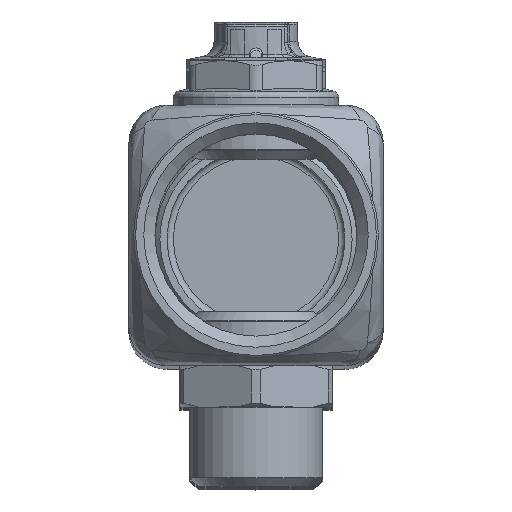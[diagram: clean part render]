
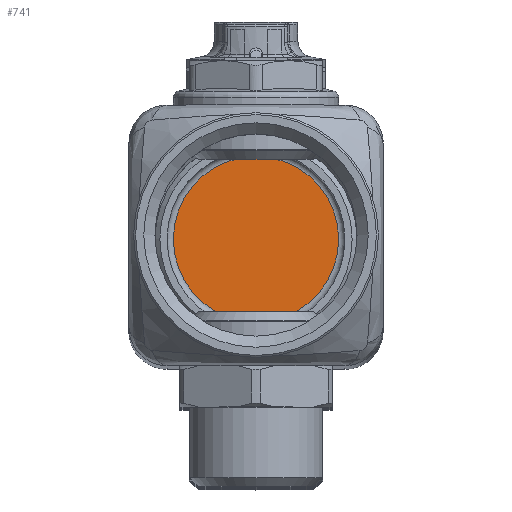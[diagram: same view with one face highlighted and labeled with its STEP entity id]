
A CAD part, top view. The second image highlights one B-rep face of the part: STEP entity #741.
In plain terms, the highlighted planar face has unit normal (0, 0, 1).
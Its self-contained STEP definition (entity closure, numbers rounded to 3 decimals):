
#741=ADVANCED_FACE('',(#9582),#9584,.T.);
#9582=FACE_BOUND('',#9583,.T.);
#9583=EDGE_LOOP('',(#13387));
#9584=PLANE('',#9585);
#9585=AXIS2_PLACEMENT_3D('',#9586,#9587,#9588);
#9586=CARTESIAN_POINT('',(0.,0.,-184.75));
#9587=DIRECTION('',(0.,0.,1.));
#9588=DIRECTION('',(1.,0.,0.));
#13387=ORIENTED_EDGE('',*,*,#16344,.T.);
#16344=EDGE_CURVE('',#19580,#19580,#19581,.T.);
#19580=VERTEX_POINT('',#30951);
#19581=CIRCLE('',#30952,13.);
#30951=CARTESIAN_POINT('',(13.,0.,-184.75));
#30952=AXIS2_PLACEMENT_3D('',#30953,#30954,#30955);
#30953=CARTESIAN_POINT('',(0.,0.,-184.75));
#30954=DIRECTION('',(0.,0.,1.));
#30955=DIRECTION('',(1.,0.,0.));
